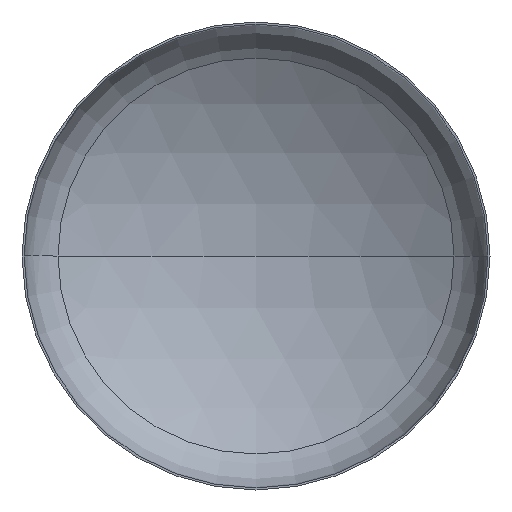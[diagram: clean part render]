
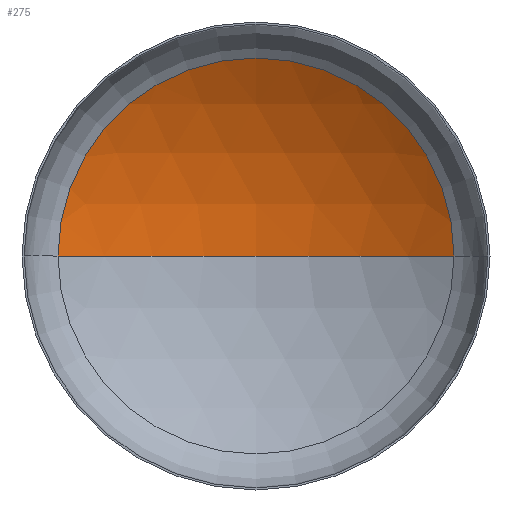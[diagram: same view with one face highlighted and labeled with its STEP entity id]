
A CAD part, front view. The second image highlights one B-rep face of the part: STEP entity #275.
In plain terms, the highlighted spherical face has radius 3200 mm.
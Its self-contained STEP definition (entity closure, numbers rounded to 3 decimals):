
#5 = VERTEX_POINT ( 'NONE', #283 ) ;
#11 = VERTEX_POINT ( 'NONE', #295 ) ;
#12 = DIRECTION ( 'NONE',  ( -1., 0., 0. ) ) ;
#20 = EDGE_LOOP ( 'NONE', ( #142, #68, #91 ) ) ;
#25 = SPHERICAL_SURFACE ( 'NONE', #93, 3200. ) ;
#27 = DIRECTION ( 'NONE',  ( 0., 0., -1. ) ) ;
#53 = DIRECTION ( 'NONE',  ( 0., 0., -1. ) ) ;
#68 = ORIENTED_EDGE ( 'NONE', *, *, #213, .T. ) ;
#91 = ORIENTED_EDGE ( 'NONE', *, *, #207, .T. ) ;
#93 = AXIS2_PLACEMENT_3D ( 'NONE', #156, #53, #108 ) ;
#106 = CARTESIAN_POINT ( 'NONE',  ( 1692.224, 576.971, 0. ) ) ;
#108 = DIRECTION ( 'NONE',  ( -1., 0., 0. ) ) ;
#109 = CIRCLE ( 'NONE', #148, 1692.224 ) ;
#142 = ORIENTED_EDGE ( 'NONE', *, *, #215, .F. ) ;
#144 = AXIS2_PLACEMENT_3D ( 'NONE', #210, #378, #331 ) ;
#147 = AXIS2_PLACEMENT_3D ( 'NONE', #304, #27, #12 ) ;
#148 = AXIS2_PLACEMENT_3D ( 'NONE', #171, #400, #262 ) ;
#156 = CARTESIAN_POINT ( 'NONE',  ( 0., -2138.977, 0. ) ) ;
#171 = CARTESIAN_POINT ( 'NONE',  ( 0., 576.971, 0. ) ) ;
#207 = EDGE_CURVE ( 'NONE', #286, #11, #109, .T. ) ;
#210 = CARTESIAN_POINT ( 'NONE',  ( 0., -2138.977, 0. ) ) ;
#213 = EDGE_CURVE ( 'NONE', #5, #286, #381, .T. ) ;
#215 = EDGE_CURVE ( 'NONE', #5, #11, #258, .T. ) ;
#238 = FACE_OUTER_BOUND ( 'NONE', #20, .T. ) ;
#258 = CIRCLE ( 'NONE', #144, 3200. ) ;
#262 = DIRECTION ( 'NONE',  ( 1., 0., 0. ) ) ;
#275 = ADVANCED_FACE ( 'NONE', ( #238 ), #25, .F. ) ;
#283 = CARTESIAN_POINT ( 'NONE',  ( 0., 1061.023, 0. ) ) ;
#286 = VERTEX_POINT ( 'NONE', #106 ) ;
#295 = CARTESIAN_POINT ( 'NONE',  ( -1692.224, 576.971, 0. ) ) ;
#304 = CARTESIAN_POINT ( 'NONE',  ( 0., -2138.977, 0. ) ) ;
#331 = DIRECTION ( 'NONE',  ( 1., 0., 0. ) ) ;
#378 = DIRECTION ( 'NONE',  ( 0., 0., 1. ) ) ;
#381 = CIRCLE ( 'NONE', #147, 3200. ) ;
#400 = DIRECTION ( 'NONE',  ( 0., -1., 0. ) ) ;
